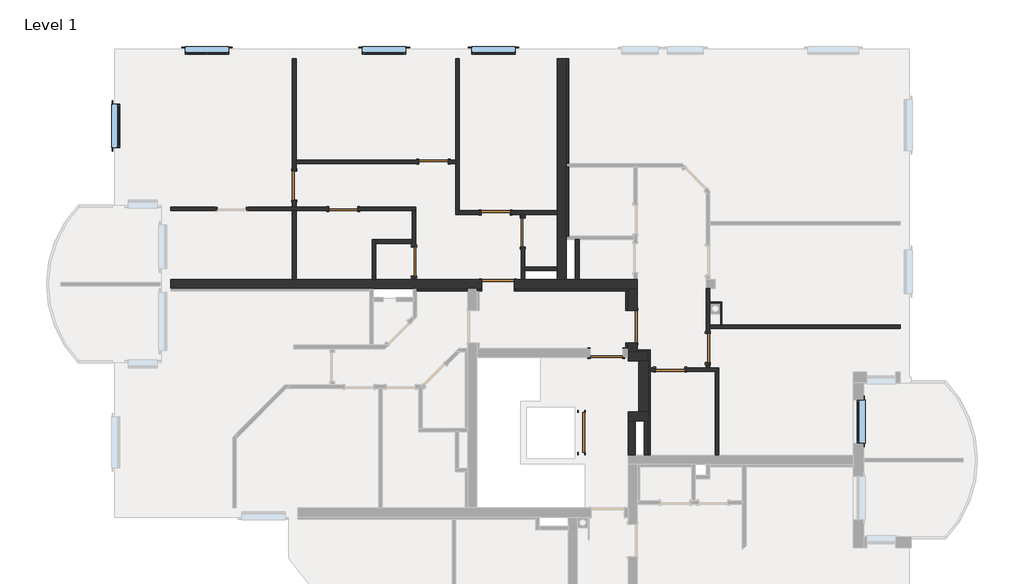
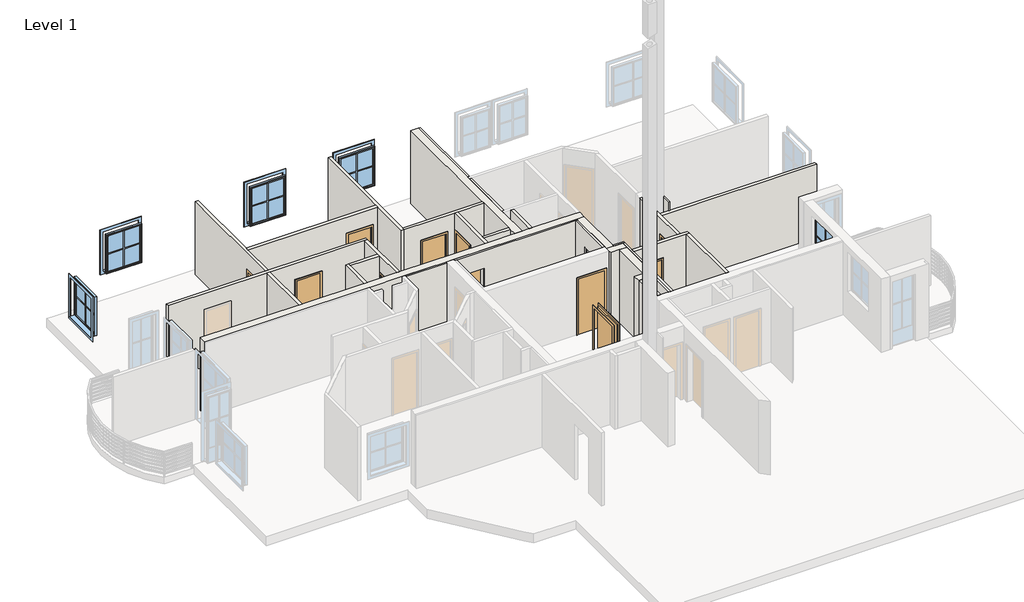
# One storey, part 3 of 4: 33 walls, 12 doors, 5 windows.
"""IFC4 building model written with IfcOpenShell, lengths in millimetres."""

import ifcopenshell
import ifcopenshell.guid

model = None  # the IFC model being written
_history = None  # IfcOwnerHistory: only IFC2X3 demands one
_inside = {}  # id of a spatial element -> (the spatial element, [elements in it])
_under = {}  # id of a project, library or spatial element -> (it, [spatial elements below it])
_declared = {}  # id of a project -> (the project, [libraries it declares])
_typed = {}  # id of a type object -> (the type object, [elements of that type])
_made_of = {}  # id of a material, layer set ... -> (it, [elements and type objects made of it])


def new_model(schema):
    """Start an empty IFC model of exactly this schema.

    Asked for "IFC4X3", IfcOpenShell would pick the latest addendum, in which some entities
    have other attributes; the version numbers below select the first issue.
    IFC2X3 requires an IfcOwnerHistory on every rooted entity: one is made here for all.
    """
    global model, _history
    if schema == "IFC4X3":
        model = ifcopenshell.file(schema_version=(4, 3, 0, 0))
    else:
        model = ifcopenshell.file(schema=schema)
    _inside.clear()
    _under.clear()
    _declared.clear()
    _typed.clear()
    _made_of.clear()
    _history = None
    if model.schema == "IFC2X3":
        org = make("IfcOrganization", Name="unknown")
        user = make(
            "IfcPersonAndOrganization",
            ThePerson=make("IfcPerson", FamilyName="unknown"),
            TheOrganization=org,
        )
        app = make(
            "IfcApplication",
            ApplicationDeveloper=org,
            Version="unknown",
            ApplicationFullName="unknown",
            ApplicationIdentifier="unknown",
        )
        _history = make(
            "IfcOwnerHistory",
            OwningUser=user,
            OwningApplication=app,
            ChangeAction="ADDED",
            CreationDate=0,
        )
    return model


def make(cls, **values):
    """One entity of the class cls with the attributes given. An attribute that is None is left unset."""
    return model.create_entity(
        cls, **{name: value for name, value in values.items() if value is not None}
    )


def rooted(cls, **values):
    """An entity with a GlobalId (a new one), such as an element, a storey or a relation."""
    return make(cls, GlobalId=ifcopenshell.guid.new(), OwnerHistory=_history, **values)


def si_unit(unit_type, name, prefix=None):
    """IfcSIUnit, for example si_unit("LENGTHUNIT", "METRE", prefix="MILLI")."""
    return make("IfcSIUnit", UnitType=unit_type, Prefix=prefix, Name=name)


def assignment(units):
    """IfcUnitAssignment: the units of a project."""
    return None if units is None else make("IfcUnitAssignment", Units=units)


def point(xyz):
    """IfcCartesianPoint."""
    return None if xyz is None else make("IfcCartesianPoint", Coordinates=xyz)


def direction(xyz):
    """IfcDirection."""
    return None if xyz is None else make("IfcDirection", DirectionRatios=xyz)


def frame(location, z_axis=None, x_axis=None):
    """IfcAxis2Placement3D, a coordinate frame: its origin and axes. An axis left out is left unset."""
    return make(
        "IfcAxis2Placement3D",
        Location=point(location),
        Axis=direction(z_axis),
        RefDirection=direction(x_axis),
    )


def origin():
    """The frame at (0, 0, 0) with its axes left unset."""
    return frame((0.0, 0.0, 0.0))


def origin_with_axes():
    """The frame at (0, 0, 0) with the z axis (0, 0, 1) and the x axis (1, 0, 0) written out."""
    return frame((0.0, 0.0, 0.0), z_axis=(0.0, 0.0, 1.0), x_axis=(1.0, 0.0, 0.0))


def place(relative_to, where):
    """IfcLocalPlacement: puts the frame where relative to a parent placement (None: the world)."""
    return make(
        "IfcLocalPlacement", PlacementRelTo=relative_to, RelativePlacement=where
    )


def context(
    kind, dimensions, precision=None, world=None, true_north=None, identifier=None
):
    """IfcGeometricRepresentationContext, for example the 3D "Model" context."""
    return make(
        "IfcGeometricRepresentationContext",
        ContextIdentifier=identifier,
        ContextType=kind,
        CoordinateSpaceDimension=dimensions,
        Precision=precision,
        WorldCoordinateSystem=world,
        TrueNorth=true_north,
    )


def project(units=None, contexts=None):
    """IfcProject with its units and contexts."""
    return rooted(
        "IfcProject",
        Name="project",
        RepresentationContexts=contexts,
        UnitsInContext=assignment(units),
    )


def spatial(cls, under=None, at=None, **own):
    """A site, building, storey or space (cls), placed at a placement, below another one or the project."""
    s = rooted(cls, ObjectPlacement=at, **own)
    if under is not None:
        _under.setdefault(under.id(), (under, []))[1].append(s)
    return s


def polyline(points):
    """IfcPolyline through the points."""
    return make("IfcPolyline", Points=[point(p) for p in points])


def outline(outer, holes=None, kind="AREA"):
    """IfcArbitraryClosedProfileDef: a profile drawn as a closed curve; with holes, ...WithVoids."""
    if holes is None:
        return make("IfcArbitraryClosedProfileDef", ProfileType=kind, OuterCurve=outer)
    return make(
        "IfcArbitraryProfileDefWithVoids",
        ProfileType=kind,
        OuterCurve=outer,
        InnerCurves=holes,
    )


def extrude(swept, where, along, depth):
    """IfcExtrudedAreaSolid: the profile swept, set in the frame where, extruded along a direction by depth."""
    return make(
        "IfcExtrudedAreaSolid",
        SweptArea=swept,
        Position=where,
        ExtrudedDirection=direction(along),
        Depth=depth,
    )


def faces_of(points, faces, orient=None, outer=None):
    """IfcFace entities. A face is a list of loops; a loop is a list of indices into points, from 0.

    orient and outer hold one flag for each loop. By default every Orientation is true, the
    first loop of a face is its IfcFaceOuterBound and the others are IfcFaceBound.
    """
    made = []
    for i, loops in enumerate(faces):
        bounds = []
        for j, loop in enumerate(loops):
            is_outer = j == 0 if outer is None else outer[i][j]
            bounds.append(
                make(
                    "IfcFaceOuterBound" if is_outer else "IfcFaceBound",
                    Bound=make("IfcPolyLoop", Polygon=[points[k] for k in loop]),
                    Orientation=True if orient is None else orient[i][j],
                )
            )
        made.append(make("IfcFace", Bounds=bounds))
    return made


def faceted_brep(points, faces, orient=None, outer=None, voids=None):
    """IfcFacetedBrep: a solid bounded by flat faces; with voids (closed shells), ...WithVoids."""
    shared = [point(p) for p in points]
    hull = make("IfcClosedShell", CfsFaces=faces_of(shared, faces, orient, outer))
    if voids is None:
        return make("IfcFacetedBrep", Outer=hull)
    return make(
        "IfcFacetedBrepWithVoids",
        Outer=hull,
        Voids=[
            make(cls, CfsFaces=faces_of(shared, fs, o, b)) for cls, fs, o, b in voids
        ],
    )


def shape(context_of_items, identifier, shape_type, items):
    """IfcShapeRepresentation: the items that make up one representation, for example the "Body"."""
    return make(
        "IfcShapeRepresentation",
        ContextOfItems=context_of_items,
        RepresentationIdentifier=identifier,
        RepresentationType=shape_type,
        Items=items,
    )


def source(mapping_origin, context_of_items, identifier, shape_type, items):
    """IfcRepresentationMap: a shape defined once, which mapped items show again and again."""
    return make(
        "IfcRepresentationMap",
        MappingOrigin=mapping_origin,
        MappedRepresentation=shape(context_of_items, identifier, shape_type, items),
    )


def transform(
    local_origin,
    x_axis=None,
    y_axis=None,
    z_axis=None,
    scale=None,
    scale2=None,
    scale3=None,
    uniform=True,
):
    """IfcCartesianTransformationOperator3D, or its non-uniform kind. x_axis, y_axis, z_axis: its Axis1, 2, 3."""
    if uniform:
        return make(
            "IfcCartesianTransformationOperator3D",
            Axis1=direction(x_axis),
            Axis2=direction(y_axis),
            LocalOrigin=point(local_origin),
            Scale=scale,
            Axis3=direction(z_axis),
        )
    return make(
        "IfcCartesianTransformationOperator3DnonUniform",
        Axis1=direction(x_axis),
        Axis2=direction(y_axis),
        LocalOrigin=point(local_origin),
        Scale=scale,
        Axis3=direction(z_axis),
        Scale2=scale2,
        Scale3=scale3,
    )


def mapped(mapping_source, mapping_target):
    """IfcMappedItem: shows the shape of a source again, moved by a transform."""
    return make(
        "IfcMappedItem", MappingSource=mapping_source, MappingTarget=mapping_target
    )


def made_of(thing, what):
    """Note that an element or type object is made of a material, layer set ...; save() writes the relation."""
    if what is not None:
        _made_of.setdefault(what.id(), (what, []))[1].append(thing)
    return thing


def element(
    cls,
    number,
    at=None,
    inside=None,
    cuts=None,
    type_object=None,
    material=None,
    context=None,
    identifier="Body",
    shape_type=None,
    held_by="IfcProductDefinitionShape",
    body=None,
    shapes=None,
    **own,
):
    """One element of the class cls, such as IfcWall. Its Tag is "e" and its number.

    at: its placement. inside: the storey or other place that contains it. cuts: it is an
    opening in that element (IfcRelVoidsElement). A single representation is given by context,
    identifier, shape_type and body (its items); several are given by shapes. held_by: the class
    of the entity that holds the representations. save() writes the other relations.
    """
    e = rooted(cls, Tag="e%d" % number, ObjectPlacement=at, **own)
    if body is not None:
        shapes = [shape(context, identifier, shape_type, body)]
    if shapes is not None:
        e.Representation = make(held_by, Representations=shapes)
    if inside is not None:
        _inside.setdefault(inside.id(), (inside, []))[1].append(e)
    if cuts is not None:
        rooted(
            "IfcRelVoidsElement", RelatingBuildingElement=cuts, RelatedOpeningElement=e
        )
    if type_object is not None:
        _typed.setdefault(type_object.id(), (type_object, []))[1].append(e)
    return made_of(e, material)


def aggregate(whole, parts):
    """IfcRelAggregates: a whole, such as a stair, and the parts it consists of."""
    return rooted("IfcRelAggregates", RelatingObject=whole, RelatedObjects=parts)


def save(model, path):
    """Write the relations noted so far, then the file.

    IfcRelAggregates (storeys below a building ...), IfcRelContainedInSpatialStructure (elements
    in a storey), IfcRelDefinesByType, IfcRelAssociatesMaterial and IfcRelDeclares: one each for
    every whole, place, type object, material and project.
    """
    for whole, parts in _under.values():
        aggregate(whole, parts)
    for where, things in _inside.values():
        rooted(
            "IfcRelContainedInSpatialStructure",
            RelatedElements=things,
            RelatingStructure=where,
        )
    for kind, things in _typed.values():
        rooted("IfcRelDefinesByType", RelatedObjects=things, RelatingType=kind)
    for what, things in _made_of.values():
        rooted("IfcRelAssociatesMaterial", RelatedObjects=things, RelatingMaterial=what)
    for by, libraries in _declared.values():
        rooted("IfcRelDeclares", RelatingContext=by, RelatedDefinitions=libraries)
    model.write(path)


def standard_door_sd_1100x2000_1d62120a(model_context):
    return source(origin(), model_context, "Body", "SweptSolid", [
        extrude(outline(polyline([(2060.0, -610.0), (0.0, -610.0), (0.0, -550.0), (2000.0, -550.0), (2000.0, 550.0), (0.0, 550.0), (0.0, 610.0), (2060.0, 610.0), (2060.0, -610.0)])), frame((0.0, 85.0, 0.0), z_axis=(0.0, 1.0, 0.0), x_axis=(0.0, 0.0, 1.0)), (0.0, 0.0, 1.0), 20.0),
        extrude(outline(polyline([(2060.0, 610.0), (2060.0, -610.0), (0.0, -610.0), (0.0, -550.0), (2000.0, -550.0), (2000.0, 550.0), (0.0, 550.0), (0.0, 610.0), (2060.0, 610.0)])), frame((0.0, -105.0, 0.0), z_axis=(0.0, 1.0, 0.0), x_axis=(0.0, 0.0, 1.0)), (0.0, 0.0, 1.0), 20.0),
        extrude(outline(polyline([(550.0, 35.0), (-550.0, 35.0), (-550.0, 85.0), (550.0, 85.0), (550.0, 35.0)])), origin_with_axes(), (0.0, 0.0, 1.0), 2000.0),
    ])


def standard_door_sd_800x2000_6a16926d(model_context):
    return source(origin(), model_context, "Body", "SweptSolid", [
        extrude(outline(polyline([(2060.0, -460.0), (0.0, -460.0), (0.0, -400.0), (2000.0, -400.0), (2000.0, 400.0), (0.0, 400.0), (0.0, 460.0), (2060.0, 460.0), (2060.0, -460.0)])), frame((0.0, -70.0, 0.0), z_axis=(0.0, 1.0, 0.0), x_axis=(0.0, 0.0, 1.0)), (0.0, 0.0, 1.0), 20.0),
        extrude(outline(polyline([(2060.0, 460.0), (2060.0, -460.0), (0.0, -460.0), (0.0, -400.0), (2000.0, -400.0), (2000.0, 400.0), (0.0, 400.0), (0.0, 460.0), (2060.0, 460.0)])), frame((0.0, 50.0, 0.0), z_axis=(0.0, 1.0, 0.0), x_axis=(0.0, 0.0, 1.0)), (0.0, 0.0, 1.0), 20.0),
        extrude(outline(polyline([(400.0, 0.0), (400.0, -50.0), (-400.0, -50.0), (-400.0, 0.0), (400.0, 0.0)])), origin_with_axes(), (0.0, 0.0, 1.0), 2000.0),
    ])


def standard_door_sd_800x2000_80f4ff25(model_context):
    return source(origin(), model_context, "Body", "SweptSolid", [
        extrude(outline(polyline([(2060.0, -460.0), (0.0, -460.0), (0.0, -400.0), (2000.0, -400.0), (2000.0, 400.0), (0.0, 400.0), (0.0, 460.0), (2060.0, 460.0), (2060.0, -460.0)])), frame((0.0, 50.0, 0.0), z_axis=(0.0, 1.0, 0.0), x_axis=(0.0, 0.0, 1.0)), (0.0, 0.0, 1.0), 20.0),
        extrude(outline(polyline([(2060.0, 460.0), (2060.0, -460.0), (0.0, -460.0), (0.0, -400.0), (2000.0, -400.0), (2000.0, 400.0), (0.0, 400.0), (0.0, 460.0), (2060.0, 460.0)])), frame((0.0, -70.0, 0.0), z_axis=(0.0, 1.0, 0.0), x_axis=(0.0, 0.0, 1.0)), (0.0, 0.0, 1.0), 20.0),
        extrude(outline(polyline([(400.0, 0.0), (-400.0, 0.0), (-400.0, 50.0), (400.0, 50.0), (400.0, 0.0)])), origin_with_axes(), (0.0, 0.0, 1.0), 2000.0),
    ])


def standard_door_sd_900x2000_a6683946(model_context):
    return source(origin(), model_context, "Body", "SweptSolid", [
        extrude(outline(polyline([(2060.0, -510.0), (0.0, -510.0), (0.0, -450.0), (2000.0, -450.0), (2000.0, 450.0), (0.0, 450.0), (0.0, 510.0), (2060.0, 510.0), (2060.0, -510.0)])), frame((0.0, -145.0, 0.0), z_axis=(0.0, 1.0, 0.0), x_axis=(0.0, 0.0, 1.0)), (0.0, 0.0, 1.0), 20.0),
        extrude(outline(polyline([(2060.0, 510.0), (2060.0, -510.0), (0.0, -510.0), (0.0, -450.0), (2000.0, -450.0), (2000.0, 450.0), (0.0, 450.0), (0.0, 510.0), (2060.0, 510.0)])), frame((0.0, 125.0, 0.0), z_axis=(0.0, 1.0, 0.0), x_axis=(0.0, 0.0, 1.0)), (0.0, 0.0, 1.0), 20.0),
        extrude(outline(polyline([(450.0, -75.0), (450.0, -125.0), (-450.0, -125.0), (-450.0, -75.0), (450.0, -75.0)])), origin_with_axes(), (0.0, 0.0, 1.0), 2000.0),
    ])


def standard_door_sd_900x2000_4224ae2a(model_context):
    return source(origin(), model_context, "Body", "SweptSolid", [
        extrude(outline(polyline([(2060.0, -510.0), (0.0, -510.0), (0.0, -450.0), (2000.0, -450.0), (2000.0, 450.0), (0.0, 450.0), (0.0, 510.0), (2060.0, 510.0), (2060.0, -510.0)])), frame((0.0, 125.0, 0.0), z_axis=(0.0, 1.0, 0.0), x_axis=(0.0, 0.0, 1.0)), (0.0, 0.0, 1.0), 20.0),
        extrude(outline(polyline([(2060.0, 510.0), (2060.0, -510.0), (0.0, -510.0), (0.0, -450.0), (2000.0, -450.0), (2000.0, 450.0), (0.0, 450.0), (0.0, 510.0), (2060.0, 510.0)])), frame((0.0, -145.0, 0.0), z_axis=(0.0, 1.0, 0.0), x_axis=(0.0, 0.0, 1.0)), (0.0, 0.0, 1.0), 20.0),
        extrude(outline(polyline([(450.0, 75.0), (-450.0, 75.0), (-450.0, 125.0), (450.0, 125.0), (450.0, 75.0)])), origin_with_axes(), (0.0, 0.0, 1.0), 2000.0),
    ])


def standard_window_with_mullions_80486b60(model_context):
    return source(origin(), model_context, "Body", "SweptSolid", [
        extrude(outline(polyline([(600.0, 26.9623738), (-600.0, 26.9623738), (-600.0, 180.0), (600.0, 180.0), (600.0, 26.9623738)])), frame((0.0, 0.0, 1000.0), z_axis=(0.0, 0.0, 1.0), x_axis=(1.0, 0.0, 0.0)), (0.0, 0.0, 1.0), 25.0),
        extrude(outline(polyline([(2500.0, -700.0), (900.0, -700.0), (900.0, 700.0), (2500.0, 700.0), (2500.0, -700.0)]), holes=[polyline([(2400.0, -600.0), (2400.0, 600.0), (1000.0, 600.0), (1000.0, -600.0), (2400.0, -600.0)])]), frame((0.0, 150.0, 0.0), z_axis=(0.0, 1.0, 0.0), x_axis=(0.0, 0.0, 1.0)), (0.0, 0.0, 1.0), 15.0),
        extrude(outline(polyline([(2375.0, -575.0), (1025.0, -575.0), (1025.0, 575.0), (2375.0, 575.0), (2375.0, -575.0)]), holes=[polyline([(2340.0, -540.0), (2340.0, 540.0), (1060.0, 540.0), (1060.0, -540.0), (2340.0, -540.0)])]), frame((0.0, -39.0188131, 0.0), z_axis=(0.0, 1.0, 0.0), x_axis=(0.0, 0.0, 1.0)), (0.0, 0.0, 1.0), 50.5),
        extrude(outline(polyline([(1000.0, -600.0), (1000.0, 600.0), (2400.0, 600.0), (2400.0, -600.0), (1000.0, -600.0)]), holes=[polyline([(1025.0, -575.0), (2375.0, -575.0), (2375.0, 575.0), (1025.0, 575.0), (1025.0, -575.0)])]), frame((0.0, -39.0188131, 0.0), z_axis=(0.0, 1.0, 0.0), x_axis=(0.0, 0.0, 1.0)), (0.0, 0.0, 1.0), 65.9811869),
        extrude(outline(polyline([(1715.0, 540.0), (1715.0, 15.0), (2340.0, 15.0), (2340.0, -15.0), (1715.0, -15.0), (1715.0, -540.0), (1685.0, -540.0), (1685.0, -15.0), (1060.0, -15.0), (1060.0, 15.0), (1685.0, 15.0), (1685.0, 540.0), (1715.0, 540.0)])), frame((0.0, -28.5188131, 0.0), z_axis=(0.0, 1.0, 0.0), x_axis=(0.0, 0.0, 1.0)), (0.0, 0.0, 1.0), 20.0),
        extrude(outline(polyline([(540.0, -15.5188131), (-540.0, -15.5188131), (-540.0, -13.5188131), (540.0, -13.5188131), (540.0, -15.5188131)])), frame((0.0, 0.0, 1060.0), z_axis=(0.0, 0.0, 1.0), x_axis=(1.0, 0.0, 0.0)), (0.0, 0.0, 1.0), 1280.0),
    ])


model = new_model("IFC4")

# Units and contexts
model_context = context("Model", 3, world=origin())
ifc_project = project(units=[si_unit("LENGTHUNIT", "METRE", prefix="MILLI")], contexts=[model_context])

# Site, building, storey
site = spatial("IfcSite", under=ifc_project)
building = spatial("IfcBuilding", under=site)
storey = spatial("IfcBuildingStorey", under=building, Name="Level 1", Elevation=2950.0)

# Doors
placement = place(None, origin())
standard_door_sd_1100x2000_shape = standard_door_sd_1100x2000_1d62120a(model_context)
element("IfcDoor", 1, ObjectType="Standard Door : SD 1100x2000", at=placement, inside=storey, context=model_context, shape_type="MappedRepresentation", body=[
    mapped(standard_door_sd_1100x2000_shape, transform((277.8037835, 250.1290541, 2950.0), x_axis=(0.0, -1.0, 0.0), y_axis=(1.0, 0.0, 0.0), z_axis=(0.0, 0.0, 1.0))),
])
standard_door_sd_800x2000_shape = standard_door_sd_800x2000_6a16926d(model_context)
element("IfcDoor", 2, ObjectType="Standard Door : SD 800x2000", at=placement, inside=storey, context=model_context, shape_type="MappedRepresentation", body=[
    mapped(standard_door_sd_800x2000_shape, transform((-3800.8325535, 7717.6290541, 2950.0), x_axis=(-1.0, 0.0, 0.0), y_axis=(0.0, -1.0, 0.0), z_axis=(0.0, 0.0, 1.0))),
])
element("IfcDoor", 3, ObjectType="Standard Door : SD 800x2000", at=placement, inside=storey, context=model_context, shape_type="MappedRepresentation", body=[
    mapped(standard_door_sd_800x2000_shape, transform((-6287.704274, 6417.6290541, 2950.0), x_axis=(1.0, 0.0, 0.0), y_axis=(0.0, 1.0, 0.0), z_axis=(0.0, 0.0, 1.0))),
])
element("IfcDoor", 4, ObjectType="Standard Door : SD 800x2000", at=placement, inside=storey, context=model_context, shape_type="MappedRepresentation", body=[
    mapped(standard_door_sd_800x2000_shape, transform((2717.8037831, 1986.2076978, 2950.0), x_axis=(1.0, 0.0, 0.0), y_axis=(0.0, 1.0, 0.0), z_axis=(0.0, 0.0, 1.0))),
])
element("IfcDoor", 5, ObjectType="Standard Door : SD 800x2000", at=placement, inside=storey, context=model_context, shape_type="MappedRepresentation", body=[
    mapped(standard_door_sd_800x2000_shape, transform((-7637.1962165, 7067.6290545, 2950.0), x_axis=(0.0, -1.0, 0.0), y_axis=(1.0, 0.0, 0.0), z_axis=(0.0, 0.0, 1.0))),
])
element("IfcDoor", 6, ObjectType="Standard Door : SD 800x2000", at=placement, inside=storey, context=model_context, shape_type="MappedRepresentation", body=[
    mapped(standard_door_sd_800x2000_shape, transform((-4337.1962165, 4967.6290521, 2950.0), x_axis=(0.0, 1.0, 0.0), y_axis=(-1.0, 0.0, 0.0), z_axis=(0.0, 0.0, 1.0))),
])
element("IfcDoor", 7, ObjectType="Standard Door : SD 800x2000", at=placement, inside=storey, context=model_context, shape_type="MappedRepresentation", body=[
    mapped(standard_door_sd_800x2000_shape, transform((-1337.1962165, 5771.0654585, 2950.0), x_axis=(0.0, -1.0, 0.0), y_axis=(1.0, 0.0, 0.0), z_axis=(0.0, 0.0, 1.0))),
])
standard_door_sd_800x2000_2_shape = standard_door_sd_800x2000_80f4ff25(model_context)
element("IfcDoor", 8, ObjectType="Standard Door : SD 800x2000", at=placement, inside=storey, context=model_context, shape_type="MappedRepresentation", body=[
    mapped(standard_door_sd_800x2000_2_shape, transform((3762.8037835, 2576.2076972, 2950.0), x_axis=(0.0, -1.0, 0.0), y_axis=(1.0, 0.0, 0.0), z_axis=(0.0, 0.0, 1.0))),
])
element("IfcDoor", 9, ObjectType="Standard Door : SD 800x2000", at=placement, inside=storey, context=model_context, shape_type="MappedRepresentation", body=[
    mapped(standard_door_sd_800x2000_2_shape, transform((-2086.838296, 6317.6290541, 2950.0), x_axis=(1.0, 0.0, 0.0), y_axis=(0.0, 1.0, 0.0), z_axis=(0.0, 0.0, 1.0))),
])
standard_door_sd_900x2000_shape = standard_door_sd_900x2000_a6683946(model_context)
element("IfcDoor", 10, ObjectType="Standard Door : SD 900x2000", at=placement, inside=storey, context=model_context, shape_type="MappedRepresentation", body=[
    mapped(standard_door_sd_900x2000_shape, transform((1687.8037835, 3171.1987133, 2950.0), x_axis=(0.0, 1.0, 0.0), y_axis=(-1.0, 0.0, 0.0), z_axis=(0.0, 0.0, 1.0))),
])
element("IfcDoor", 11, ObjectType="Standard Door : SD 900x2000", at=placement, inside=storey, context=model_context, shape_type="MappedRepresentation", body=[
    mapped(standard_door_sd_900x2000_shape, transform((-2027.1962165, 4342.6290541, 2950.0), x_axis=(-1.0, 0.0, 0.0), y_axis=(0.0, -1.0, 0.0), z_axis=(0.0, 0.0, 1.0))),
])
standard_door_sd_900x2000_2_shape = standard_door_sd_900x2000_4224ae2a(model_context)
element("IfcDoor", 12, ObjectType="Standard Door : SD 900x2000", at=placement, inside=storey, context=model_context, shape_type="MappedRepresentation", body=[
    mapped(standard_door_sd_900x2000_2_shape, transform((967.0786115, 2442.6290541, 2950.0), x_axis=(-1.0, 0.0, 0.0), y_axis=(0.0, -1.0, 0.0), z_axis=(0.0, 0.0, 1.0))),
])

# Walls
element("IfcWall", 13, ObjectType="Interior - 100mm", at=placement, inside=storey, context=model_context, shape_type="SweptSolid", body=[
    extrude(outline(polyline([(-7687.1962165, 4467.6290541), (-7687.1962165, 6367.6290541), (-7587.1962165, 6367.6290541), (-7587.1962165, 4467.6290541), (-7687.1962165, 4467.6290541)])), frame((0.0, 0.0, 2950.0), z_axis=(0.0, 0.0, 1.0), x_axis=(1.0, 0.0, 0.0)), (0.0, 0.0, 1.0), 2630.0),
])
element("IfcWall", 14, ObjectType="Interior - 100mm", at=placement, inside=storey, context=model_context, shape_type="Brep", body=[
    faceted_brep([(-4287.1962165, 6367.6290541, 2950.0), (-4387.1962165, 6367.6290541, 2950.0), (-5887.704274, 6367.6290541, 2950.0), (-5887.704274, 6467.6290541, 2950.0), (-4287.1962165, 6467.6290541, 2950.0), (-6687.704274, 6367.6290541, 2950.0), (-7587.1962165, 6367.6290541, 2950.0), (-7687.1962165, 6367.6290541, 2950.0), (-8962.1962165, 6367.6290541, 2950.0), (-8962.1962165, 6467.6290541, 2950.0), (-7687.1962165, 6467.6290541, 2950.0), (-7587.1962165, 6467.6290541, 2950.0), (-6687.704274, 6467.6290541, 2950.0), (-9762.1962165, 6367.6290541, 2950.0), (-11037.1962165, 6367.6290541, 2950.0), (-11037.1962165, 6467.6290541, 2950.0), (-9762.1962165, 6467.6290541, 2950.0), (-8962.1962165, 6367.6290541, 4950.0), (-6687.704274, 6367.6290541, 4950.0), (-5887.704274, 6367.6290541, 4950.0), (-4287.1962165, 6367.6290541, 5580.0), (-4387.1962165, 6367.6290541, 5580.0), (-7587.1962165, 6367.6290541, 5580.0), (-7687.1962165, 6367.6290541, 5580.0), (-11037.1962165, 6367.6290541, 5580.0), (-9762.1962165, 6367.6290541, 4950.0), (-8962.1962165, 6467.6290541, 4950.0), (-9762.1962165, 6467.6290541, 4950.0), (-11037.1962165, 6467.6290541, 5580.0), (-7687.1962165, 6467.6290541, 5580.0), (-7587.1962165, 6467.6290541, 5580.0), (-4287.1962165, 6467.6290541, 5580.0), (-5887.704274, 6467.6290541, 4950.0), (-6687.704274, 6467.6290541, 4950.0)], [[[0, 1, 2, 3, 4]], [[5, 6, 7, 8, 9, 10, 11, 12]], [[13, 14, 15, 16]], [[17, 8, 7, 6, 5, 18, 19, 2, 1, 0, 20, 21, 22, 23, 24, 14, 13, 25]], [[12, 11, 10, 9, 26, 27, 16, 15, 28, 29, 30, 31, 4, 3, 32, 33]], [[20, 0, 4, 31]], [[14, 24, 28, 15]], [[24, 23, 22, 21, 20, 31, 30, 29, 28]], [[32, 3, 2, 19]], [[33, 32, 19, 18]], [[12, 33, 18, 5]], [[26, 9, 8, 17]], [[27, 26, 17, 25]], [[16, 27, 25, 13]]]),
])
element("IfcWall", 15, ObjectType="Interior - 100mm", at=placement, inside=storey, context=model_context, shape_type="Brep", body=[
    faceted_brep([(-4287.1962165, 6367.6290541, 2950.0), (-4287.1962165, 5367.6290521, 2950.0), (-4387.1962165, 5367.6290521, 2950.0), (-4387.1962165, 5467.6290541, 2950.0), (-4387.1962165, 5567.6290541, 2950.0), (-4387.1962165, 6367.6290541, 2950.0), (-4287.1962165, 4567.6290521, 2950.0), (-4287.1962165, 4467.6290541, 2950.0), (-4387.1962165, 4467.6290541, 2950.0), (-4387.1962165, 4567.6290521, 2950.0), (-4387.1962165, 5367.6290521, 4950.0), (-4387.1962165, 4567.6290521, 4950.0), (-4387.1962165, 4467.6290541, 5580.0), (-4387.1962165, 5467.6290541, 5580.0), (-4387.1962165, 5567.6290541, 5580.0), (-4387.1962165, 6367.6290541, 5580.0), (-4287.1962165, 5367.6290521, 4950.0), (-4287.1962165, 6367.6290541, 5580.0), (-4287.1962165, 4467.6290541, 5580.0), (-4287.1962165, 4567.6290521, 4950.0)], [[[0, 1, 2, 3, 4, 5]], [[6, 7, 8, 9]], [[5, 4, 3, 2, 10, 11, 9, 8, 12, 13, 14, 15]], [[16, 1, 0, 17, 18, 7, 6, 19]], [[5, 15, 17, 0]], [[12, 8, 7, 18]], [[15, 14, 13, 12, 18, 17]], [[10, 2, 1, 16]], [[11, 10, 16, 19]], [[9, 11, 19, 6]]]),
])
element("IfcWall", 16, ObjectType="Interior - 100mm", at=placement, inside=storey, context=model_context, shape_type="Brep", body=[
    faceted_brep([(-3087.1962165, 6267.6290541, 2950.0), (-3087.1962165, 6367.6290541, 2950.0), (-3087.1962165, 10567.6290541, 2950.0), (-3087.1962165, 10567.6290541, 5580.0), (-3087.1962165, 6367.6290541, 5580.0), (-3087.1962165, 6267.6290541, 5580.0), (-3187.1962165, 6267.6290541, 2950.0), (-3187.1962165, 6267.6290541, 5580.0), (-3187.1962165, 7667.6290541, 5580.0), (-3187.1962165, 7767.6290541, 5580.0), (-3187.1962165, 10567.6290541, 5580.0), (-3187.1962165, 10567.6290541, 2950.0), (-3187.1962165, 7767.6290541, 2950.0), (-3187.1962165, 7667.6290541, 2950.0)], [[[0, 1, 2, 3, 4, 5]], [[6, 7, 8, 9, 10, 11, 12, 13]], [[2, 1, 0, 6, 13, 12, 11]], [[0, 5, 7, 6]], [[3, 2, 11, 10]], [[5, 4, 3, 10, 9, 8, 7]]]),
])
element("IfcWall", 17, ObjectType="Interior - 100mm", at=placement, inside=storey, context=model_context, shape_type="SweptSolid", body=[
    extrude(outline(polyline([(2950.0, -7587.1962165), (2950.0, -4200.8325535), (4950.0, -4200.8325535), (4950.0, -3400.8325535), (2950.0, -3400.8325535), (2950.0, -3187.1962165), (5580.0, -3187.1962165), (5580.0, -7587.1962165), (2950.0, -7587.1962165)])), frame((0.0, 7667.6290541, 0.0), z_axis=(0.0, 1.0, 0.0), x_axis=(0.0, 0.0, 1.0)), (0.0, 0.0, 1.0), 100.0),
])
element("IfcWall", 18, ObjectType="Interior - 100mm", at=placement, inside=storey, context=model_context, shape_type="Brep", body=[
    faceted_brep([(-7687.1962165, 6467.6290541, 2950.0), (-7687.1962165, 6667.6290545, 2950.0), (-7587.1962165, 6667.6290545, 2950.0), (-7587.1962165, 6467.6290541, 2950.0), (-7687.1962165, 7467.6290545, 2950.0), (-7687.1962165, 10567.6290541, 2950.0), (-7587.1962165, 10567.6290541, 2950.0), (-7587.1962165, 7767.6290541, 2950.0), (-7587.1962165, 7667.6290541, 2950.0), (-7587.1962165, 7467.6290545, 2950.0), (-7587.1962165, 6667.6290545, 4950.0), (-7587.1962165, 7467.6290545, 4950.0), (-7587.1962165, 10567.6290541, 5580.0), (-7587.1962165, 7767.6290541, 5580.0), (-7587.1962165, 7667.6290541, 5580.0), (-7587.1962165, 6467.6290541, 5580.0), (-7687.1962165, 6667.6290545, 4950.0), (-7687.1962165, 6467.6290541, 5580.0), (-7687.1962165, 10567.6290541, 5580.0), (-7687.1962165, 7467.6290545, 4950.0)], [[[0, 1, 2, 3]], [[4, 5, 6, 7, 8, 9]], [[3, 2, 10, 11, 9, 8, 7, 6, 12, 13, 14, 15]], [[16, 1, 0, 17, 18, 5, 4, 19]], [[12, 6, 5, 18]], [[3, 15, 17, 0]], [[15, 14, 13, 12, 18, 17]], [[10, 2, 1, 16]], [[11, 10, 16, 19]], [[9, 11, 19, 4]]]),
])
element("IfcWall", 19, ObjectType="Interior - 100mm", at=placement, inside=storey, context=model_context, shape_type="Brep", body=[
    faceted_brep([(-387.1962165, 6267.6290541, 2950.0), (-1287.1962165, 6267.6290541, 2950.0), (-1387.1962165, 6267.6290541, 2950.0), (-1686.838296, 6267.6290541, 2950.0), (-1686.838296, 6367.6290541, 2950.0), (-387.1962165, 6367.6290541, 2950.0), (-2486.838296, 6267.6290541, 2950.0), (-3087.1962165, 6267.6290541, 2950.0), (-3087.1962165, 6367.6290541, 2950.0), (-2486.838296, 6367.6290541, 2950.0), (-1686.838296, 6267.6290541, 4950.0), (-387.1962165, 6267.6290541, 5580.0), (-1287.1962165, 6267.6290541, 5580.0), (-1387.1962165, 6267.6290541, 5580.0), (-3087.1962165, 6267.6290541, 5580.0), (-2486.838296, 6267.6290541, 4950.0), (-1686.838296, 6367.6290541, 4950.0), (-2486.838296, 6367.6290541, 4950.0), (-3087.1962165, 6367.6290541, 5580.0), (-387.1962165, 6367.6290541, 5580.0)], [[[0, 1, 2, 3, 4, 5]], [[6, 7, 8, 9]], [[10, 3, 2, 1, 0, 11, 12, 13, 14, 7, 6, 15]], [[5, 4, 16, 17, 9, 8, 18, 19]], [[11, 0, 5, 19]], [[7, 14, 18, 8]], [[14, 13, 12, 11, 19, 18]], [[16, 4, 3, 10]], [[17, 16, 10, 15]], [[9, 17, 15, 6]]]),
])
element("IfcWall", 20, ObjectType="Interior - 100mm", at=placement, inside=storey, context=model_context, shape_type="Brep", body=[
    faceted_brep([(-1387.1962165, 4467.6290541, 2950.0), (-1387.1962165, 5371.0654585, 2950.0), (-1287.1962165, 5371.0654585, 2950.0), (-1287.1962165, 4817.6290541, 2950.0), (-1287.1962165, 4717.6290541, 2950.0), (-1287.1962165, 4467.6290541, 2950.0), (-1387.1962165, 6171.0654585, 2950.0), (-1387.1962165, 6267.6290541, 2950.0), (-1287.1962165, 6267.6290541, 2950.0), (-1287.1962165, 6171.0654585, 2950.0), (-1287.1962165, 5371.0654585, 4950.0), (-1287.1962165, 6171.0654585, 4950.0), (-1287.1962165, 6267.6290541, 5580.0), (-1287.1962165, 4817.6290541, 5580.0), (-1287.1962165, 4717.6290541, 5580.0), (-1287.1962165, 4467.6290541, 5580.0), (-1387.1962165, 5371.0654585, 4950.0), (-1387.1962165, 4467.6290541, 5580.0), (-1387.1962165, 6267.6290541, 5580.0), (-1387.1962165, 6171.0654585, 4950.0)], [[[0, 1, 2, 3, 4, 5]], [[6, 7, 8, 9]], [[5, 4, 3, 2, 10, 11, 9, 8, 12, 13, 14, 15]], [[16, 1, 0, 17, 18, 7, 6, 19]], [[5, 15, 17, 0]], [[12, 8, 7, 18]], [[15, 14, 13, 12, 18, 17]], [[10, 2, 1, 16]], [[11, 10, 16, 19]], [[9, 11, 19, 6]]]),
])
element("IfcWall", 21, ObjectType="Interior - 100mm", at=placement, inside=storey, context=model_context, shape_type="SweptSolid", body=[
    extrude(outline(polyline([(-387.1962165, 4717.6290541), (-1287.1962165, 4717.6290541), (-1287.1962165, 4817.6290541), (-387.1962165, 4817.6290541), (-387.1962165, 4717.6290541)])), frame((0.0, 0.0, 2950.0), z_axis=(0.0, 0.0, 1.0), x_axis=(1.0, 0.0, 0.0)), (0.0, 0.0, 1.0), 2630.0),
])
element("IfcWall", 22, ObjectType="Interior - 100mm", at=placement, inside=storey, context=model_context, shape_type="Brep", body=[
    faceted_brep([(4062.8037835, 1936.2076978, 2950.0), (3962.8037835, 1936.2076978, 2950.0), (3117.8037831, 1936.2076978, 2950.0), (3117.8037831, 2036.2076978, 2950.0), (3712.8037835, 2036.2076978, 2950.0), (3812.8037835, 2036.2076978, 2950.0), (4062.8037835, 2036.2076978, 2950.0), (2317.8037831, 1936.2076978, 2950.0), (2177.8037835, 1936.2076978, 2950.0), (2177.8037835, 2036.2076978, 2950.0), (2317.8037831, 2036.2076978, 2950.0), (3117.8037831, 1936.2076978, 4950.0), (4062.8037835, 1936.2076978, 5580.0), (3962.8037835, 1936.2076978, 5580.0), (2177.8037835, 1936.2076978, 5580.0), (2317.8037831, 1936.2076978, 4950.0), (3117.8037831, 2036.2076978, 4950.0), (2317.8037831, 2036.2076978, 4950.0), (2177.8037835, 2036.2076978, 5580.0), (3712.8037835, 2036.2076978, 5580.0), (3812.8037835, 2036.2076978, 5580.0), (4062.8037835, 2036.2076978, 5580.0)], [[[0, 1, 2, 3, 4, 5, 6]], [[7, 8, 9, 10]], [[11, 2, 1, 0, 12, 13, 14, 8, 7, 15]], [[6, 5, 4, 3, 16, 17, 10, 9, 18, 19, 20, 21]], [[8, 14, 18, 9]], [[12, 0, 6, 21]], [[14, 13, 12, 21, 20, 19, 18]], [[16, 3, 2, 11]], [[17, 16, 11, 15]], [[10, 17, 15, 7]]]),
])
element("IfcWall", 23, ObjectType="Interior - 100mm", at=placement, inside=storey, context=model_context, shape_type="SweptSolid", body=[
    extrude(outline(polyline([(3962.8037835, -382.3709459), (3962.8037835, 1936.2076978), (4062.8037835, 1936.2076978), (4062.8037835, -382.3709459), (3962.8037835, -382.3709459)])), frame((0.0, 0.0, 2950.0), z_axis=(0.0, 0.0, 1.0), x_axis=(1.0, 0.0, 0.0)), (0.0, 0.0, 1.0), 2630.0),
])
element("IfcWall", 24, ObjectType="Interior - 100mm", at=placement, inside=storey, context=model_context, shape_type="SweptSolid", body=[
    extrude(outline(polyline([(2012.8037835, -382.3709459), (2012.8037835, 567.6290541), (2112.8037835, 567.6290541), (2112.8037835, -382.3709459), (2012.8037835, -382.3709459)])), frame((0.0, 0.0, 2950.0), z_axis=(0.0, 0.0, 1.0), x_axis=(1.0, 0.0, 0.0)), (0.0, 0.0, 1.0), 2630.0),
])
element("IfcWall", 25, ObjectType="Interior - 100mm", at=placement, inside=storey, context=model_context, shape_type="SweptSolid", body=[
    extrude(outline(polyline([(112.8037835, 4467.6290541), (112.8037835, 5567.6290541), (212.8037835, 5567.6290541), (212.8037835, 4467.6290541), (112.8037835, 4467.6290541)])), frame((0.0, 0.0, 2950.0), z_axis=(0.0, 0.0, 1.0), x_axis=(1.0, 0.0, 0.0)), (0.0, 0.0, 1.0), 2630.0),
])
element("IfcWall", 26, ObjectType="Interior - 100mm", at=placement, inside=storey, context=model_context, shape_type="Brep", body=[
    faceted_brep([(9062.8037835, 3216.2076978, 2950.0), (4142.8037835, 3216.2076978, 2950.0), (4112.8037835, 3216.2076978, 2950.0), (3812.8037835, 3216.2076978, 2950.0), (3812.8037835, 3216.2076978, 5580.0), (9062.8037835, 3216.2076978, 5580.0), (9062.8037835, 3116.2076978, 2950.0), (9062.8037835, 3116.2076978, 5580.0), (3812.8037835, 3116.2076978, 5580.0), (3812.8037835, 3116.2076978, 2950.0)], [[[0, 1, 2, 3, 4, 5]], [[6, 7, 8, 9]], [[3, 2, 1, 0, 6, 9]], [[4, 3, 9, 8]], [[0, 5, 7, 6]], [[5, 4, 8, 7]]]),
])
element("IfcWall", 27, ObjectType="Interior - 100mm", at=placement, inside=storey, context=model_context, shape_type="Brep", body=[
    faceted_brep([(3712.8037835, 2036.2076978, 2950.0), (3712.8037835, 2176.2076972, 2950.0), (3812.8037835, 2176.2076972, 2950.0), (3812.8037835, 2036.2076978, 2950.0), (3712.8037835, 2976.2076972, 2950.0), (3712.8037835, 4217.6290541, 2950.0), (3812.8037835, 4217.6290541, 2950.0), (3812.8037835, 3846.2076978, 2950.0), (3812.8037835, 3816.2076978, 2950.0), (3812.8037835, 3216.2076978, 2950.0), (3812.8037835, 3116.2076978, 2950.0), (3812.8037835, 2976.2076972, 2950.0), (3712.8037835, 2176.2076972, 4950.0), (3712.8037835, 2036.2076978, 5580.0), (3712.8037835, 4217.6290541, 5580.0), (3712.8037835, 2976.2076972, 4950.0), (3812.8037835, 2176.2076972, 4950.0), (3812.8037835, 2976.2076972, 4950.0), (3812.8037835, 4217.6290541, 5580.0), (3812.8037835, 3216.2076978, 5580.0), (3812.8037835, 3116.2076978, 5580.0), (3812.8037835, 2036.2076978, 5580.0)], [[[0, 1, 2, 3]], [[4, 5, 6, 7, 8, 9, 10, 11]], [[12, 1, 0, 13, 14, 5, 4, 15]], [[3, 2, 16, 17, 11, 10, 9, 8, 7, 6, 18, 19, 20, 21]], [[13, 0, 3, 21]], [[5, 14, 18, 6]], [[14, 13, 21, 20, 19, 18]], [[16, 2, 1, 12]], [[17, 16, 12, 15]], [[11, 17, 15, 4]]]),
])
element("IfcWall", 28, ObjectType="Interior - 100mm", at=placement, inside=storey, context=model_context, shape_type="Brep", body=[
    faceted_brep([(-5387.1962165, 4467.6290541, 2950.0), (-5387.1962165, 5467.6290541, 2950.0), (-5387.1962165, 5567.6290541, 2950.0), (-5387.1962165, 5567.6290541, 5580.0), (-5387.1962165, 5467.6290541, 5580.0), (-5387.1962165, 4467.6290541, 5580.0), (-5487.1962165, 4467.6290541, 2950.0), (-5487.1962165, 4467.6290541, 5580.0), (-5487.1962165, 5567.6290541, 5580.0), (-5487.1962165, 5567.6290541, 2950.0)], [[[0, 1, 2, 3, 4, 5]], [[6, 7, 8, 9]], [[2, 1, 0, 6, 9]], [[3, 2, 9, 8]], [[0, 5, 7, 6]], [[5, 4, 3, 8, 7]]]),
])
element("IfcWall", 29, ObjectType="Interior - 100mm", at=placement, inside=storey, context=model_context, shape_type="SweptSolid", body=[
    extrude(outline(polyline([(-4387.1962165, 5467.6290541), (-5387.1962165, 5467.6290541), (-5387.1962165, 5567.6290541), (-4387.1962165, 5567.6290541), (-4387.1962165, 5467.6290541)])), frame((0.0, 0.0, 2950.0), z_axis=(0.0, 0.0, 1.0), x_axis=(1.0, 0.0, 0.0)), (0.0, 0.0, 1.0), 2630.0),
])
element("IfcWall", 30, ObjectType="Interior - 200mm", at=placement, inside=storey, context=model_context, shape_type="SweptSolid", body=[
    extrude(outline(polyline([(1562.8087381, -382.3709459), (1562.8087381, 567.6290541), (1762.8087381, 567.6290541), (1762.8087381, -382.3709459), (1562.8087381, -382.3709459)])), frame((0.0, 0.0, 2950.0), z_axis=(0.0, 0.0, 1.0), x_axis=(1.0, 0.0, 0.0)), (0.0, 0.0, 1.0), 2630.0),
])
element("IfcWall", 31, ObjectType="Interior - 250mm", at=placement, inside=storey, context=model_context, shape_type="Brep", body=[
    faceted_brep([(-11037.1962165, 4467.6290541, 2950.0), (-7687.1962165, 4467.6290541, 2950.0), (-7587.1962165, 4467.6290541, 2950.0), (-5487.1962165, 4467.6290541, 2950.0), (-5387.1962165, 4467.6290541, 2950.0), (-4387.1962165, 4467.6290541, 2950.0), (-4287.1962165, 4467.6290541, 2950.0), (-2477.1962165, 4467.6290541, 2950.0), (-2477.1962165, 4217.6290541, 2950.0), (-2607.1962165, 4217.6290541, 2950.0), (-2857.1962165, 4217.6290541, 2950.0), (-4257.1962165, 4217.6290541, 2950.0), (-4357.1962165, 4217.6290541, 2950.0), (-5457.1962165, 4217.6290541, 2950.0), (-5557.1962165, 4217.6290541, 2950.0), (-11037.1962165, 4217.6290541, 2950.0), (-1577.1962165, 4467.6290541, 2950.0), (-1387.1962165, 4467.6290541, 2950.0), (-1287.1962165, 4467.6290541, 2950.0), (-387.1962165, 4467.6290541, 2950.0), (-137.1962165, 4467.6290541, 2950.0), (112.8037835, 4467.6290541, 2950.0), (212.8037835, 4467.6290541, 2950.0), (1712.8037835, 4467.6290541, 2950.0), (1812.8037835, 4467.6290541, 2950.0), (1812.8037835, 4217.6290541, 2950.0), (1562.8037835, 4217.6290541, 2950.0), (-1577.1962165, 4217.6290541, 2950.0), (-2477.1962165, 4217.6290541, 4950.0), (-1577.1962165, 4217.6290541, 4950.0), (1812.8037835, 4217.6290541, 5580.0), (1562.8037835, 4217.6290541, 5580.0), (-2607.1962165, 4217.6290541, 5580.0), (-2857.1962165, 4217.6290541, 5580.0), (-4257.1962165, 4217.6290541, 5580.0), (-4357.1962165, 4217.6290541, 5580.0), (-5457.1962165, 4217.6290541, 5580.0), (-5557.1962165, 4217.6290541, 5580.0), (-11037.1962165, 4217.6290541, 5580.0), (-2477.1962165, 4467.6290541, 4950.0), (-11037.1962165, 4467.6290541, 5580.0), (-7687.1962165, 4467.6290541, 5580.0), (-7587.1962165, 4467.6290541, 5580.0), (-5487.1962165, 4467.6290541, 5580.0), (-5387.1962165, 4467.6290541, 5580.0), (-4387.1962165, 4467.6290541, 5580.0), (-4287.1962165, 4467.6290541, 5580.0), (-1387.1962165, 4467.6290541, 5580.0), (-1287.1962165, 4467.6290541, 5580.0), (-387.1962165, 4467.6290541, 5580.0), (-137.1962165, 4467.6290541, 5580.0), (112.8037835, 4467.6290541, 5580.0), (212.8037835, 4467.6290541, 5580.0), (1712.8037835, 4467.6290541, 5580.0), (1812.8037835, 4467.6290541, 5580.0), (-1577.1962165, 4467.6290541, 4950.0)], [[[0, 1, 2, 3, 4, 5, 6, 7, 8, 9, 10, 11, 12, 13, 14, 15]], [[16, 17, 18, 19, 20, 21, 22, 23, 24, 25, 26, 27]], [[15, 14, 13, 12, 11, 10, 9, 8, 28, 29, 27, 26, 25, 30, 31, 32, 33, 34, 35, 36, 37, 38]], [[39, 7, 6, 5, 4, 3, 2, 1, 0, 40, 41, 42, 43, 44, 45, 46, 47, 48, 49, 50, 51, 52, 53, 54, 24, 23, 22, 21, 20, 19, 18, 17, 16, 55]], [[15, 38, 40, 0]], [[30, 25, 24, 54]], [[38, 37, 36, 35, 34, 33, 32, 31, 30, 54, 53, 52, 51, 50, 49, 48, 47, 46, 45, 44, 43, 42, 41, 40]], [[28, 8, 7, 39]], [[29, 28, 39, 55]], [[27, 29, 55, 16]]]),
])
element("IfcWall", 32, ObjectType="Interior - 250mm", at=placement, inside=storey, context=model_context, shape_type="SweptSolid", body=[
    extrude(outline(polyline([(2112.8037835, 2217.6290541), (2112.8037835, 817.6290541), (1862.8037835, 817.6290541), (1862.8037835, 2217.6290541), (2112.8037835, 2217.6290541)])), frame((0.0, 0.0, 2950.0), z_axis=(0.0, 0.0, 1.0), x_axis=(1.0, 0.0, 0.0)), (0.0, 0.0, 1.0), 2630.0),
])
element("IfcWall", 33, ObjectType="Interior - 250mm", at=placement, inside=storey, context=model_context, shape_type="Brep", body=[
    faceted_brep([(2112.8037835, 2467.6290541, 2950.0), (1812.8037835, 2467.6290541, 2950.0), (1562.8037835, 2467.6290541, 2950.0), (1562.8037835, 2467.6290541, 5580.0), (1812.8037835, 2467.6290541, 5580.0), (2112.8037835, 2467.6290541, 5580.0), (2112.8037835, 2217.6290541, 2950.0), (2112.8037835, 2217.6290541, 5580.0), (1862.8037835, 2217.6290541, 5580.0), (1562.8037835, 2217.6290541, 5580.0), (1562.8037835, 2217.6290541, 2950.0), (1862.8037835, 2217.6290541, 2950.0), (1562.8037835, 2317.6290541, 2950.0), (1562.8037835, 2317.6290541, 5580.0)], [[[0, 1, 2, 3, 4, 5]], [[6, 7, 8, 9, 10, 11]], [[2, 1, 0, 6, 11, 10, 12]], [[3, 2, 12, 10, 9, 13]], [[0, 5, 7, 6]], [[5, 4, 3, 13, 9, 8, 7]]]),
])
element("IfcWall", 34, ObjectType="Interior - 250mm", at=placement, inside=storey, context=model_context, shape_type="Brep", body=[
    faceted_brep([(1812.8037835, 4217.6290541, 2950.0), (1812.8037835, 3621.1987133, 2950.0), (1562.8037835, 3621.1987133, 2950.0), (1562.8037835, 4152.6290541, 2950.0), (1562.8037835, 4217.6290541, 2950.0), (1812.8037835, 2721.1987133, 2950.0), (1812.8037835, 2522.6290541, 2950.0), (1812.8037835, 2467.6290541, 2950.0), (1562.8037835, 2467.6290541, 2950.0), (1562.8037835, 2567.6290541, 2950.0), (1562.8037835, 2721.1987133, 2950.0), (1812.8037835, 3621.1987133, 4950.0), (1812.8037835, 4217.6290541, 5580.0), (1812.8037835, 2522.6290541, 5580.0), (1812.8037835, 2467.6290541, 5580.0), (1812.8037835, 2721.1987133, 4950.0), (1562.8037835, 3621.1987133, 4950.0), (1562.8037835, 2721.1987133, 4950.0), (1562.8037835, 2467.6290541, 5580.0), (1562.8037835, 2567.6290541, 5580.0), (1562.8037835, 4152.6290541, 5580.0), (1562.8037835, 4217.6290541, 5580.0)], [[[0, 1, 2, 3, 4]], [[5, 6, 7, 8, 9, 10]], [[11, 1, 0, 12, 13, 14, 7, 6, 5, 15]], [[4, 3, 2, 16, 17, 10, 9, 8, 18, 19, 20, 21]], [[7, 14, 18, 8]], [[12, 0, 4, 21]], [[14, 13, 12, 21, 20, 19, 18]], [[16, 2, 1, 11]], [[17, 16, 11, 15]], [[10, 17, 15, 5]]]),
])
element("IfcWall", 35, ObjectType="Interior - 250mm", at=placement, inside=storey, context=model_context, shape_type="Brep", body=[
    faceted_brep([(-387.1962165, 10567.6290541, 2950.0), (-387.1962165, 6367.6290541, 2950.0), (-387.1962165, 6267.6290541, 2950.0), (-387.1962165, 4817.6290541, 2950.0), (-387.1962165, 4717.6290541, 2950.0), (-387.1962165, 4467.6290541, 2950.0), (-387.1962165, 4467.6290541, 5580.0), (-387.1962165, 4717.6290541, 5580.0), (-387.1962165, 4817.6290541, 5580.0), (-387.1962165, 6267.6290541, 5580.0), (-387.1962165, 6367.6290541, 5580.0), (-387.1962165, 10567.6290541, 5580.0), (-137.1962165, 10567.6290541, 2950.0), (-137.1962165, 10567.6290541, 5580.0), (-137.1962165, 7667.6290541, 5580.0), (-137.1962165, 7567.6290541, 5580.0), (-137.1962165, 5667.6290541, 5580.0), (-137.1962165, 5567.6290541, 5580.0), (-137.1962165, 4467.6290541, 5580.0), (-137.1962165, 4467.6290541, 2950.0), (-137.1962165, 5567.6290541, 2950.0), (-137.1962165, 5667.6290541, 2950.0), (-137.1962165, 7567.6290541, 2950.0), (-137.1962165, 7667.6290541, 2950.0)], [[[0, 1, 2, 3, 4, 5, 6, 7, 8, 9, 10, 11]], [[12, 13, 14, 15, 16, 17, 18, 19, 20, 21, 22, 23]], [[5, 4, 3, 2, 1, 0, 12, 23, 22, 21, 20, 19]], [[6, 5, 19, 18]], [[0, 11, 13, 12]], [[11, 10, 9, 8, 7, 6, 18, 17, 16, 15, 14, 13]]]),
])
element("IfcWall", 36, ObjectType="Interior - 250mm", at=placement, inside=storey, context=model_context, shape_type="Brep", body=[
    faceted_brep([(2112.8037835, 817.6290541, 2950.0), (1862.8037835, 817.6290541, 2950.0), (1562.8087381, 817.6290541, 2950.0), (1562.8087381, 817.6290541, 5580.0), (1862.8037835, 817.6290541, 5580.0), (2112.8037835, 817.6290541, 5580.0), (2112.8037835, 567.6290541, 2950.0), (2112.8037835, 567.6290541, 5580.0), (2012.8037835, 567.6290541, 5580.0), (1762.8087381, 567.6290541, 5580.0), (1562.8087381, 567.6290541, 5580.0), (1562.8087381, 567.6290541, 2950.0), (1762.8087381, 567.6290541, 2950.0), (2012.8037835, 567.6290541, 2950.0)], [[[0, 1, 2, 3, 4, 5]], [[6, 7, 8, 9, 10, 11, 12, 13]], [[2, 1, 0, 6, 13, 12, 11]], [[0, 5, 7, 6]], [[3, 2, 11, 10]], [[5, 4, 3, 10, 9, 8, 7]]]),
])
element("IfcWall", 37, ObjectType="Interior - 300mm", at=placement, inside=storey, context=model_context, shape_type="Brep", body=[
    faceted_brep([(3812.8037835, 3816.2076978, 2950.0), (4112.8037835, 3816.2076978, 2950.0), (4142.8037835, 3816.2076978, 2950.0), (4142.8037835, 3816.2076978, 5900.0), (4112.8037835, 3816.2076978, 5900.0), (3812.8037835, 3816.2076978, 5900.0), (3812.8037835, 3846.2076978, 2950.0), (3812.8037835, 3846.2076978, 5900.0), (4142.8037835, 3846.2076978, 5900.0), (4142.8037835, 3846.2076978, 2950.0)], [[[0, 1, 2, 3, 4, 5]], [[6, 7, 8, 9]], [[2, 1, 0, 6, 9]], [[5, 4, 3, 8, 7]], [[3, 2, 9, 8]], [[0, 5, 7, 6]]]),
])
element("IfcWall", 38, ObjectType="Interior - 300mm", at=placement, inside=storey, context=model_context, shape_type="SweptSolid", body=[
    extrude(outline(polyline([(4112.8037835, 3216.2076978), (4112.8037835, 3816.2076978), (4142.8037835, 3816.2076978), (4142.8037835, 3216.2076978), (4112.8037835, 3216.2076978)])), frame((0.0, 0.0, 2950.0), z_axis=(0.0, 0.0, 1.0), x_axis=(1.0, 0.0, 0.0)), (0.0, 0.0, 1.0), 2950.0),
])
element("IfcWall", 39, ObjectType="Interior - 65mm", at=placement, inside=storey, context=model_context, shape_type="Brep", body=[
    faceted_brep([(-2607.1962165, 4217.6290541, 2950.0), (-2477.1962165, 4217.6290541, 2950.0), (-2477.1962165, 4152.6290541, 2950.0), (-2542.1962165, 4152.6290541, 2950.0), (-2607.1962165, 4152.6290541, 2950.0), (-1577.1962165, 4217.6290541, 2950.0), (1562.8037835, 4217.6290541, 2950.0), (1562.8037835, 4152.6290541, 2950.0), (1497.8037835, 4152.6290541, 2950.0), (-1577.1962165, 4152.6290541, 2950.0), (-2477.1962165, 4152.6290541, 4950.0), (-1577.1962165, 4152.6290541, 4950.0), (1562.8037835, 4152.6290541, 5580.0), (1497.8037835, 4152.6290541, 5580.0), (-2542.1962165, 4152.6290541, 5580.0), (-2607.1962165, 4152.6290541, 5580.0), (-2477.1962165, 4217.6290541, 4950.0), (-2607.1962165, 4217.6290541, 5580.0), (1562.8037835, 4217.6290541, 5580.0), (-1577.1962165, 4217.6290541, 4950.0)], [[[0, 1, 2, 3, 4]], [[5, 6, 7, 8, 9]], [[4, 3, 2, 10, 11, 9, 8, 7, 12, 13, 14, 15]], [[16, 1, 0, 17, 18, 6, 5, 19]], [[12, 7, 6, 18]], [[4, 15, 17, 0]], [[15, 14, 13, 12, 18, 17]], [[10, 2, 1, 16]], [[11, 10, 16, 19]], [[9, 11, 19, 5]]]),
])
element("IfcWall", 40, ObjectType="Interior - 65mm", at=placement, inside=storey, context=model_context, shape_type="SweptSolid", body=[
    extrude(outline(polyline([(4152.6290541, 2950.0), (3621.1987133, 2950.0), (3621.1987133, 4950.0), (2721.1987133, 4950.0), (2721.1987133, 2950.0), (2567.6290541, 2950.0), (2567.6290541, 5580.0), (4152.6290541, 5580.0), (4152.6290541, 2950.0)])), frame((1497.8037835, 0.0, 0.0), z_axis=(1.0, 0.0, 0.0), x_axis=(0.0, 1.0, 0.0)), (0.0, 0.0, 1.0), 65.0),
])
element("IfcWall", 41, ObjectType="Interior - 65mm", at=placement, inside=storey, context=model_context, shape_type="Brep", body=[
    faceted_brep([(1812.8037835, 2457.6290541, 2950.0), (2112.8037835, 2457.6290541, 2950.0), (2177.8037835, 2457.6290541, 2950.0), (2177.8037835, 2457.6290541, 5580.0), (2112.8037835, 2457.6290541, 5580.0), (1812.8037835, 2457.6290541, 5580.0), (1812.8037835, 2522.6290541, 2950.0), (1812.8037835, 2522.6290541, 5580.0), (2177.8037835, 2522.6290541, 5580.0), (2177.8037835, 2522.6290541, 2950.0), (1812.8037835, 2467.6290541, 2950.0), (1812.8037835, 2467.6290541, 5580.0)], [[[0, 1, 2, 3, 4, 5]], [[6, 7, 8, 9]], [[2, 1, 0, 10, 6, 9]], [[3, 2, 9, 8]], [[0, 5, 11, 7, 6, 10]], [[5, 4, 3, 8, 7, 11]]]),
])
element("IfcWall", 42, ObjectType="Interior - 65mm", at=placement, inside=storey, context=model_context, shape_type="Brep", body=[
    faceted_brep([(2112.8037835, 2457.6290541, 2950.0), (2112.8037835, -382.3709459, 2950.0), (2112.8037835, -382.3709459, 5580.0), (2112.8037835, 2457.6290541, 5580.0), (2177.8037835, 2457.6290541, 2950.0), (2177.8037835, 2457.6290541, 5580.0), (2177.8037835, 2036.2076978, 5580.0), (2177.8037835, 1936.2076978, 5580.0), (2177.8037835, -382.3709459, 5580.0), (2177.8037835, -382.3709459, 2950.0), (2177.8037835, 1936.2076978, 2950.0), (2177.8037835, 2036.2076978, 2950.0)], [[[0, 1, 2, 3]], [[4, 5, 6, 7, 8, 9, 10, 11]], [[1, 0, 4, 11, 10, 9]], [[0, 3, 5, 4]], [[2, 1, 9, 8]], [[3, 2, 8, 7, 6, 5]]]),
])
element("IfcWall", 43, ObjectType="Interior - 65mm", at=placement, inside=storey, context=model_context, shape_type="SweptSolid", body=[
    extrude(outline(polyline([(-137.1962165, 7674.6749556), (-137.1962165, 10567.6290541), (-72.1962165, 10567.6290541), (-72.1962165, 7674.6749556), (-137.1962165, 7674.6749556)])), frame((0.0, 0.0, 2950.0), z_axis=(0.0, 0.0, 1.0), x_axis=(1.0, 0.0, 0.0)), (0.0, 0.0, 1.0), 2630.0),
])
element("IfcWall", 44, ObjectType="Interior - 65mm", at=placement, inside=storey, context=model_context, shape_type="SweptSolid", body=[
    extrude(outline(polyline([(-137.1962165, 5669.6052715), (-137.1962165, 7567.6290541), (-72.1962165, 7567.6290541), (-72.1962165, 5669.6052715), (-137.1962165, 5669.6052715)])), frame((0.0, 0.0, 2950.0), z_axis=(0.0, 0.0, 1.0), x_axis=(1.0, 0.0, 0.0)), (0.0, 0.0, 1.0), 2630.0),
])
element("IfcWall", 45, ObjectType="Interior - 65mm", at=placement, inside=storey, context=model_context, shape_type="SweptSolid", body=[
    extrude(outline(polyline([(-4252.0294434, 4217.6290541), (-2857.1962165, 4217.6290541), (-2857.1962165, 4152.6290541), (-4252.0294434, 4152.6290541), (-4252.0294434, 4217.6290541)])), frame((0.0, 0.0, 2950.0), z_axis=(0.0, 0.0, 1.0), x_axis=(1.0, 0.0, 0.0)), (0.0, 0.0, 1.0), 2630.0),
])

# Windows
standard_window_with_mullions_shape = standard_window_with_mullions_80486b60(model_context)
element("IfcWindow", 46, ObjectType="Standard Window with mullions : 1200/1400", at=placement, inside=storey, context=model_context, shape_type="MappedRepresentation", body=[
    mapped(standard_window_with_mullions_shape, transform((7912.8037835, 555.9947187, 2950.0), x_axis=(0.0, -1.0, 0.0), y_axis=(1.0, 0.0, 0.0), z_axis=(0.0, 0.0, 1.0))),
])
element("IfcWindow", 47, ObjectType="Standard Window with mullions : 1200/1400", at=placement, inside=storey, context=model_context, shape_type="MappedRepresentation", body=[
    mapped(standard_window_with_mullions_shape, transform((-12487.1962165, 8705.3927399, 2950.0), x_axis=(0.0, 1.0, 0.0), y_axis=(-1.0, 0.0, 0.0), z_axis=(0.0, 0.0, 1.0))),
])
element("IfcWindow", 48, ObjectType="Standard Window with mullions : 1200/1400", at=placement, inside=storey, context=model_context, shape_type="MappedRepresentation", body=[
    mapped(standard_window_with_mullions_shape, transform((-10042.4747669, 10717.6290541, 2950.0), x_axis=(1.0, 0.0, 0.0), y_axis=(0.0, 1.0, 0.0), z_axis=(0.0, 0.0, 1.0))),
])
element("IfcWindow", 49, ObjectType="Standard Window with mullions : 1200/1400", at=placement, inside=storey, context=model_context, shape_type="MappedRepresentation", body=[
    mapped(standard_window_with_mullions_shape, transform((-5160.5209693, 10717.6290541, 2950.0), x_axis=(1.0, 0.0, 0.0), y_axis=(0.0, 1.0, 0.0), z_axis=(0.0, 0.0, 1.0))),
])
element("IfcWindow", 50, ObjectType="Standard Window with mullions : 1200/1400", at=placement, inside=storey, context=model_context, shape_type="MappedRepresentation", body=[
    mapped(standard_window_with_mullions_shape, transform((-2148.3679777, 10717.6290541, 2950.0), x_axis=(1.0, 0.0, 0.0), y_axis=(0.0, 1.0, 0.0), z_axis=(0.0, 0.0, 1.0))),
])

save(model, "model.ifc")
